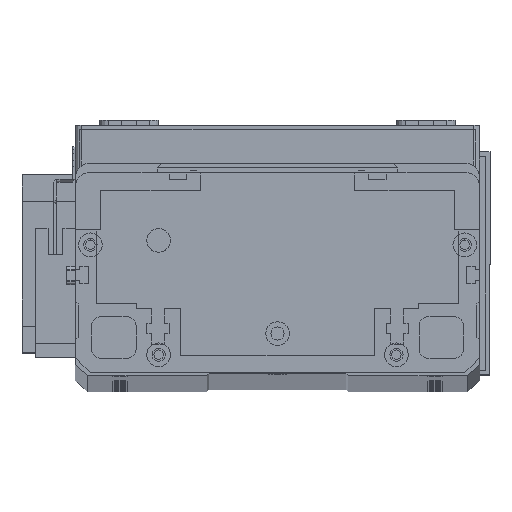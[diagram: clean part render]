
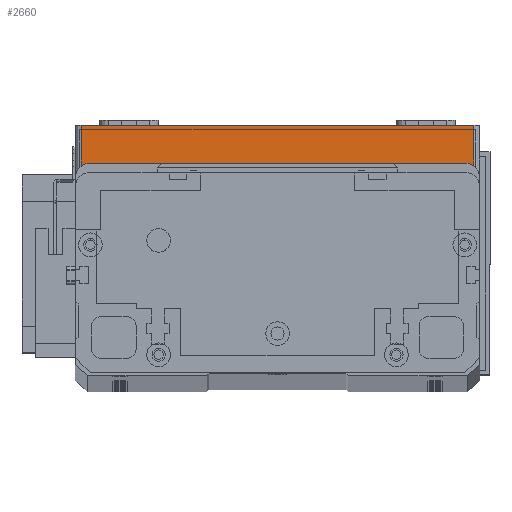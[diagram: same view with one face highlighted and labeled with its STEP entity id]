
A CAD part, top view. The second image highlights one B-rep face of the part: STEP entity #2660.
In plain terms, the highlighted planar face has unit normal (0, 0, 1) as drawn and (0, -1, 0) by its records, which use the part's own axes.
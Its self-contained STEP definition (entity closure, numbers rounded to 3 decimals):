
#351 = CARTESIAN_POINT ( 'NONE',  ( 134., 0., 19.5 ) ) ;
#2660 = ADVANCED_FACE ( 'NONE', ( #24211 ), #15999, .F. ) ;
#3341 = VECTOR ( 'NONE', #16016, 1000. ) ;
#4070 = CARTESIAN_POINT ( 'NONE',  ( 2., 0., 0. ) ) ;
#4247 = VERTEX_POINT ( 'NONE', #30515 ) ;
#5197 = EDGE_CURVE ( 'NONE', #14399, #7762, #19996, .T. ) ;
#6261 = DIRECTION ( 'NONE',  ( 0., 0., 1. ) ) ;
#6357 = DIRECTION ( 'NONE',  ( 0., 1., 0. ) ) ;
#6820 = DIRECTION ( 'NONE',  ( 0., 0., 1. ) ) ;
#7364 = DIRECTION ( 'NONE',  ( 1., 0., 0. ) ) ;
#7762 = VERTEX_POINT ( 'NONE', #351 ) ;
#7777 = CARTESIAN_POINT ( 'NONE',  ( 0., 0., 0. ) ) ;
#8464 = ORIENTED_EDGE ( 'NONE', *, *, #11779, .T. ) ;
#9606 = EDGE_LOOP ( 'NONE', ( #13919, #21431, #8464, #30258 ) ) ;
#9801 = CARTESIAN_POINT ( 'NONE',  ( 134., 0., 0. ) ) ;
#10930 = VERTEX_POINT ( 'NONE', #4070 ) ;
#11244 = CARTESIAN_POINT ( 'NONE',  ( 2., 0., 19.5 ) ) ;
#11333 = CARTESIAN_POINT ( 'NONE',  ( 0., 0., 19.5 ) ) ;
#11779 = EDGE_CURVE ( 'NONE', #10930, #14399, #27493, .T. ) ;
#13564 = VECTOR ( 'NONE', #6820, 1000. ) ;
#13919 = ORIENTED_EDGE ( 'NONE', *, *, #23159, .F. ) ;
#14399 = VERTEX_POINT ( 'NONE', #9801 ) ;
#15999 = PLANE ( 'NONE',  #23416 ) ;
#16016 = DIRECTION ( 'NONE',  ( 0., 0., -1. ) ) ;
#16638 = EDGE_CURVE ( 'NONE', #4247, #10930, #17068, .T. ) ;
#17068 = LINE ( 'NONE', #11244, #3341 ) ;
#18580 = VECTOR ( 'NONE', #7364, 1000. ) ;
#19996 = LINE ( 'NONE', #26181, #13564 ) ;
#21227 = VECTOR ( 'NONE', #27079, 1000. ) ;
#21431 = ORIENTED_EDGE ( 'NONE', *, *, #16638, .T. ) ;
#21970 = CARTESIAN_POINT ( 'NONE',  ( 0., 0., 19.5 ) ) ;
#23159 = EDGE_CURVE ( 'NONE', #4247, #7762, #24189, .T. ) ;
#23416 = AXIS2_PLACEMENT_3D ( 'NONE', #11333, #6357, #6261 ) ;
#24189 = LINE ( 'NONE', #21970, #18580 ) ;
#24211 = FACE_OUTER_BOUND ( 'NONE', #9606, .T. ) ;
#26181 = CARTESIAN_POINT ( 'NONE',  ( 134., 0., 19.5 ) ) ;
#27079 = DIRECTION ( 'NONE',  ( 1., 0., 0. ) ) ;
#27493 = LINE ( 'NONE', #7777, #21227 ) ;
#30258 = ORIENTED_EDGE ( 'NONE', *, *, #5197, .T. ) ;
#30515 = CARTESIAN_POINT ( 'NONE',  ( 2., 0., 19.5 ) ) ;
